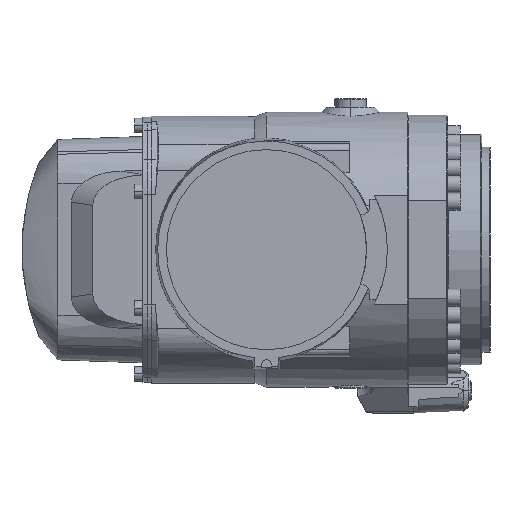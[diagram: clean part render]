
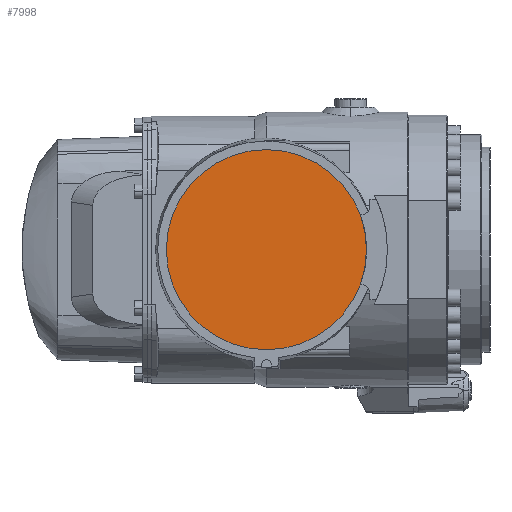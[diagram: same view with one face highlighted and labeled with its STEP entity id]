
A CAD part, front view. The second image highlights one B-rep face of the part: STEP entity #7998.
In plain terms, the highlighted planar face has unit normal (0, -1, 0).
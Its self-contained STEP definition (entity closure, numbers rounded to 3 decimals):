
#226 = VERTEX_POINT ( 'NONE', #12134 ) ;
#1794 = DIRECTION ( 'NONE',  ( 0., 1., 0. ) ) ;
#2592 = AXIS2_PLACEMENT_3D ( 'NONE', #15056, #16932, #5783 ) ;
#3465 = CARTESIAN_POINT ( 'NONE',  ( 1867.5, -76.5, 1990. ) ) ;
#3648 = AXIS2_PLACEMENT_3D ( 'NONE', #9590, #7922, #12795 ) ;
#5783 = DIRECTION ( 'NONE',  ( -1., 0., 0. ) ) ;
#5842 = PLANE ( 'NONE',  #3648 ) ;
#7922 = DIRECTION ( 'NONE',  ( 0., 1., 0. ) ) ;
#7998 = ADVANCED_FACE ( 'NONE', ( #19978 ), #5842, .F. ) ;
#9590 = CARTESIAN_POINT ( 'NONE',  ( 1867.5, -76.5, 1990. ) ) ;
#11140 = EDGE_CURVE ( 'NONE', #226, #13484, #12102, .T. ) ;
#12102 = CIRCLE ( 'NONE', #16091, 60. ) ;
#12134 = CARTESIAN_POINT ( 'NONE',  ( 1927.5, -76.5, 1990. ) ) ;
#12240 = ORIENTED_EDGE ( 'NONE', *, *, #15973, .F. ) ;
#12795 = DIRECTION ( 'NONE',  ( -1., 0., 0. ) ) ;
#13484 = VERTEX_POINT ( 'NONE', #18991 ) ;
#15056 = CARTESIAN_POINT ( 'NONE',  ( 1867.5, -76.5, 1990. ) ) ;
#15198 = CIRCLE ( 'NONE', #2592, 60. ) ;
#15973 = EDGE_CURVE ( 'NONE', #13484, #226, #15198, .T. ) ;
#16091 = AXIS2_PLACEMENT_3D ( 'NONE', #3465, #1794, #17919 ) ;
#16587 = EDGE_LOOP ( 'NONE', ( #12240, #20219 ) ) ;
#16932 = DIRECTION ( 'NONE',  ( 0., 1., 0. ) ) ;
#17919 = DIRECTION ( 'NONE',  ( -1., 0., 0. ) ) ;
#18991 = CARTESIAN_POINT ( 'NONE',  ( 1807.5, -76.5, 1990. ) ) ;
#19978 = FACE_OUTER_BOUND ( 'NONE', #16587, .T. ) ;
#20219 = ORIENTED_EDGE ( 'NONE', *, *, #11140, .F. ) ;
